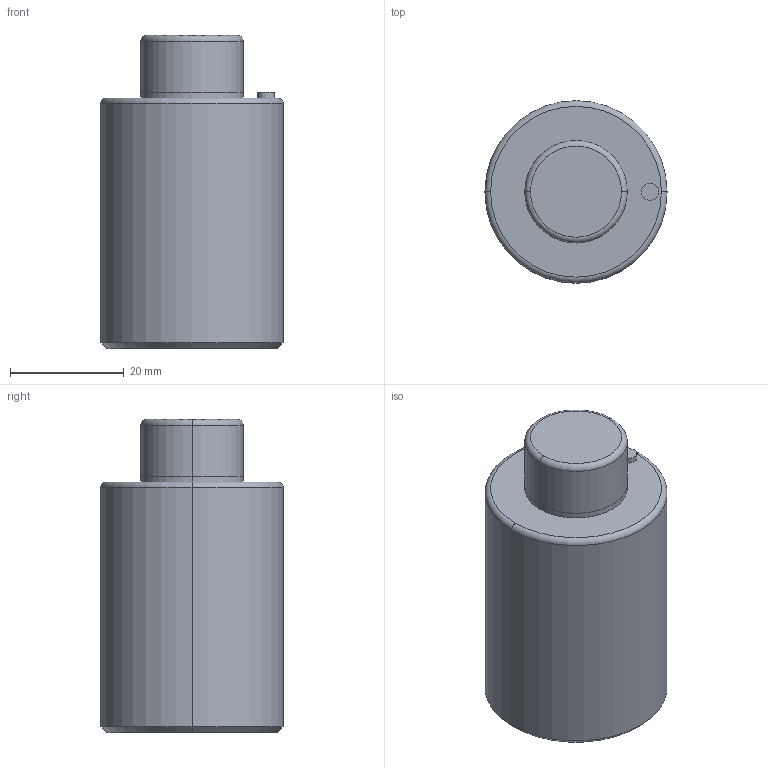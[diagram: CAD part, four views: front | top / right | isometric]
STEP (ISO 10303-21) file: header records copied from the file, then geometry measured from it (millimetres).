
FILE_DESCRIPTION(/* description */ (''),/* implementation_level */ '2;1');
FILE_NAME(/* name */ '3d_gsc32-10_03830_r00.stp',/* time_stamp */ '2011-01-10T14:15:22+09:00',/* author */ ('MISUMI'),/* organization */ (''),/* preprocessor_version */ 'ST-DEVELOPER v11',/* originating_system */ 'UGS - NX 5.0',/* authorisation */ '');
FILE_SCHEMA (('CONFIG_CONTROL_DESIGN'));
Length unit declared in the file: millimetre
Products named in the file (1): 3d_gsc32-10_03830_r00
Bounding box: 32 x 32 x 55 mm (x, y, z)
Volume: 37816.3 mm3; surface area: 6735.8 mm2
Topology: 1 solids, 1 shells, 25 faces, 50 edges, 29 vertices
Faces by surface type: cylinder 12, plane 5, torus 4, cone 4
Entity records: 728 total; most frequent: DIRECTION 132, CARTESIAN_POINT 103, ORIENTED_EDGE 96, AXIS2_PLACEMENT_3D 58, EDGE_CURVE 48, CIRCLE 32, EDGE_LOOP 29, VERTEX_POINT 29
